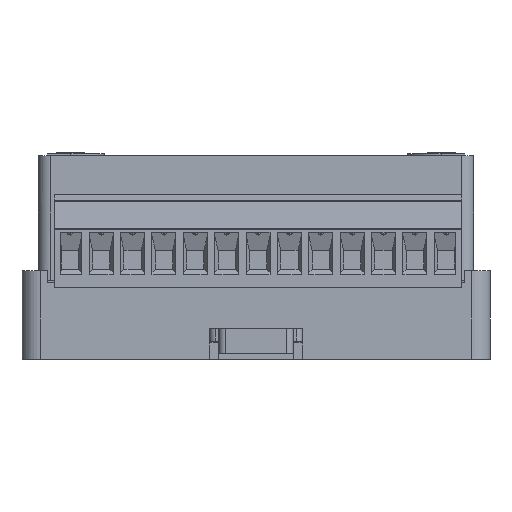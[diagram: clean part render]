
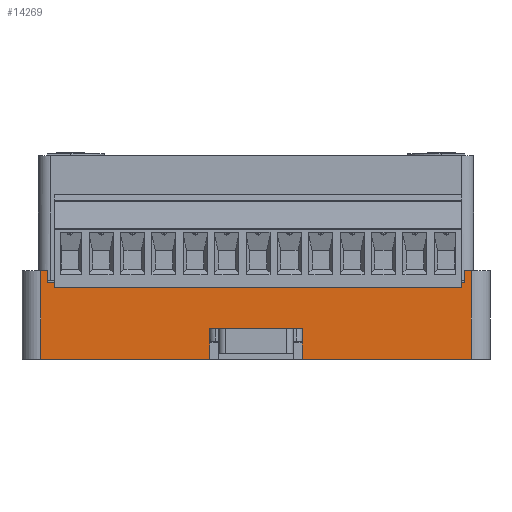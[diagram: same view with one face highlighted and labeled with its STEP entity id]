
A CAD part, front view. The second image highlights one B-rep face of the part: STEP entity #14269.
In plain terms, the highlighted planar face has unit normal (0, -1, 0).
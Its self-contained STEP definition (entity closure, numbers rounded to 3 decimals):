
#14269=ADVANCED_FACE('',(#79463),#79465,.F.);
#79463=FACE_BOUND('',#79464,.T.);
#79464=EDGE_LOOP('',(#127930,#127931,#127932,#127933,#127934,#127935,#127936,#127937,
#127938,#127939,#127940,#127941,#127942,#127943,#127944,#127945));
#79465=PLANE('',#79466);
#79466=AXIS2_PLACEMENT_3D('',#79467,#79468,#79469);
#79467=CARTESIAN_POINT('',(-37.9,-51.95,14.4));
#79468=DIRECTION('',(0.,1.,0.));
#79469=DIRECTION('',(0.,0.,1.));
#127930=ORIENTED_EDGE('',*,*,#176492,.F.);
#127931=ORIENTED_EDGE('',*,*,#176493,.F.);
#127932=ORIENTED_EDGE('',*,*,#176494,.T.);
#127933=ORIENTED_EDGE('',*,*,#176495,.T.);
#127934=ORIENTED_EDGE('',*,*,#176496,.T.);
#127935=ORIENTED_EDGE('',*,*,#175889,.F.);
#127936=ORIENTED_EDGE('',*,*,#175921,.T.);
#127937=ORIENTED_EDGE('',*,*,#175919,.F.);
#127938=ORIENTED_EDGE('',*,*,#175918,.T.);
#127939=ORIENTED_EDGE('',*,*,#175905,.F.);
#127940=ORIENTED_EDGE('',*,*,#176497,.T.);
#127941=ORIENTED_EDGE('',*,*,#176498,.T.);
#127942=ORIENTED_EDGE('',*,*,#176499,.F.);
#127943=ORIENTED_EDGE('',*,*,#176500,.F.);
#127944=ORIENTED_EDGE('',*,*,#176501,.F.);
#127945=ORIENTED_EDGE('',*,*,#175925,.F.);
#175889=EDGE_CURVE('',#198911,#198913,#198914,.T.);
#175905=EDGE_CURVE('',#198940,#198932,#198942,.T.);
#175918=EDGE_CURVE('',#198960,#198932,#198962,.T.);
#175919=EDGE_CURVE('',#198960,#198963,#198964,.T.);
#175921=EDGE_CURVE('',#198911,#198963,#198966,.T.);
#175925=EDGE_CURVE('',#198970,#198972,#198973,.T.);
#176492=EDGE_CURVE('',#199895,#198970,#199896,.T.);
#176493=EDGE_CURVE('',#199897,#199895,#199898,.T.);
#176494=EDGE_CURVE('',#199897,#199899,#199900,.T.);
#176495=EDGE_CURVE('',#199899,#199901,#199902,.T.);
#176496=EDGE_CURVE('',#199901,#198913,#199903,.T.);
#176497=EDGE_CURVE('',#198940,#199904,#199905,.T.);
#176498=EDGE_CURVE('',#199904,#199906,#199907,.T.);
#176499=EDGE_CURVE('',#199908,#199906,#199909,.T.);
#176500=EDGE_CURVE('',#199910,#199908,#199911,.T.);
#176501=EDGE_CURVE('',#198972,#199910,#199912,.T.);
#198911=VERTEX_POINT('',#248726);
#198913=VERTEX_POINT('',#248730);
#198914=LINE('',#248731,#248732);
#198932=VERTEX_POINT('',#248773);
#198940=VERTEX_POINT('',#248790);
#198942=LINE('',#248795,#248796);
#198960=VERTEX_POINT('',#248837);
#198962=LINE('',#248841,#248842);
#198963=VERTEX_POINT('',#248844);
#198964=LINE('',#248845,#248846);
#198966=LINE('',#248851,#248852);
#198970=VERTEX_POINT('',#248861);
#198972=VERTEX_POINT('',#248865);
#198973=LINE('',#248866,#248867);
#199895=VERTEX_POINT('',#254036);
#199896=LINE('',#254037,#254038);
#199897=VERTEX_POINT('',#254040);
#199898=LINE('',#254041,#254042);
#199899=VERTEX_POINT('',#254044);
#199900=LINE('',#254045,#254046);
#199901=VERTEX_POINT('',#254048);
#199902=LINE('',#254049,#254050);
#199903=LINE('',#254052,#254053);
#199904=VERTEX_POINT('',#254055);
#199905=LINE('',#254056,#254057);
#199906=VERTEX_POINT('',#254059);
#199907=LINE('',#254060,#254061);
#199908=VERTEX_POINT('',#254063);
#199909=LINE('',#254064,#254065);
#199910=VERTEX_POINT('',#254067);
#199911=LINE('',#254068,#254069);
#199912=LINE('',#254071,#254072);
#248726=CARTESIAN_POINT('',(33.85,-51.95,14.4));
#248730=CARTESIAN_POINT('',(34.9,-51.95,14.4));
#248731=CARTESIAN_POINT('',(33.85,-51.95,14.4));
#248732=VECTOR('',#248733,1.);
#248733=DIRECTION('',(1.,0.,0.));
#248773=CARTESIAN_POINT('',(-33.85,-51.95,14.4));
#248790=CARTESIAN_POINT('',(-34.9,-51.95,14.4));
#248795=CARTESIAN_POINT('',(-34.9,-51.95,14.4));
#248796=VECTOR('',#248797,1.);
#248797=DIRECTION('',(1.,0.,0.));
#248837=CARTESIAN_POINT('',(-33.85,-51.95,12.4));
#248841=CARTESIAN_POINT('',(-33.85,-51.95,12.4));
#248842=VECTOR('',#248843,1.);
#248843=DIRECTION('',(0.,0.,1.));
#248844=CARTESIAN_POINT('',(33.85,-51.95,12.4));
#248845=CARTESIAN_POINT('',(-33.85,-51.95,12.4));
#248846=VECTOR('',#248847,1.);
#248847=DIRECTION('',(1.,0.,0.));
#248851=CARTESIAN_POINT('',(33.85,-51.95,14.4));
#248852=VECTOR('',#248853,1.);
#248853=DIRECTION('',(0.,0.,-1.));
#248861=CARTESIAN_POINT('',(4.,-51.95,5.));
#248865=CARTESIAN_POINT('',(-4.,-51.95,5.));
#248866=CARTESIAN_POINT('',(4.,-51.95,5.));
#248867=VECTOR('',#248868,1.);
#248868=DIRECTION('',(-1.,0.,0.));
#254036=CARTESIAN_POINT('',(6.936,-51.95,5.));
#254037=CARTESIAN_POINT('',(6.936,-51.95,5.));
#254038=VECTOR('',#254039,1.);
#254039=DIRECTION('',(-1.,0.,0.));
#254040=CARTESIAN_POINT('',(7.5,-51.95,5.));
#254041=CARTESIAN_POINT('',(7.5,-51.95,5.));
#254042=VECTOR('',#254043,1.);
#254043=DIRECTION('',(-1.,0.,0.));
#254044=CARTESIAN_POINT('',(7.5,-51.95,0.));
#254045=CARTESIAN_POINT('',(7.5,-51.95,5.));
#254046=VECTOR('',#254047,1.);
#254047=DIRECTION('',(0.,0.,-1.));
#254048=CARTESIAN_POINT('',(34.9,-51.95,0.));
#254049=CARTESIAN_POINT('',(7.5,-51.95,0.));
#254050=VECTOR('',#254051,1.);
#254051=DIRECTION('',(1.,0.,0.));
#254052=CARTESIAN_POINT('',(34.9,-51.95,0.));
#254053=VECTOR('',#254054,1.);
#254054=DIRECTION('',(0.,0.,1.));
#254055=CARTESIAN_POINT('',(-34.9,-51.95,0.));
#254056=CARTESIAN_POINT('',(-34.9,-51.95,14.4));
#254057=VECTOR('',#254058,1.);
#254058=DIRECTION('',(0.,0.,-1.));
#254059=CARTESIAN_POINT('',(-7.5,-51.95,0.));
#254060=CARTESIAN_POINT('',(-34.9,-51.95,0.));
#254061=VECTOR('',#254062,1.);
#254062=DIRECTION('',(1.,0.,0.));
#254063=CARTESIAN_POINT('',(-7.5,-51.95,5.));
#254064=CARTESIAN_POINT('',(-7.5,-51.95,5.));
#254065=VECTOR('',#254066,1.);
#254066=DIRECTION('',(0.,0.,-1.));
#254067=CARTESIAN_POINT('',(-6.936,-51.95,5.));
#254068=CARTESIAN_POINT('',(-6.936,-51.95,5.));
#254069=VECTOR('',#254070,1.);
#254070=DIRECTION('',(-1.,0.,0.));
#254071=CARTESIAN_POINT('',(-4.,-51.95,5.));
#254072=VECTOR('',#254073,1.);
#254073=DIRECTION('',(-1.,0.,0.));
